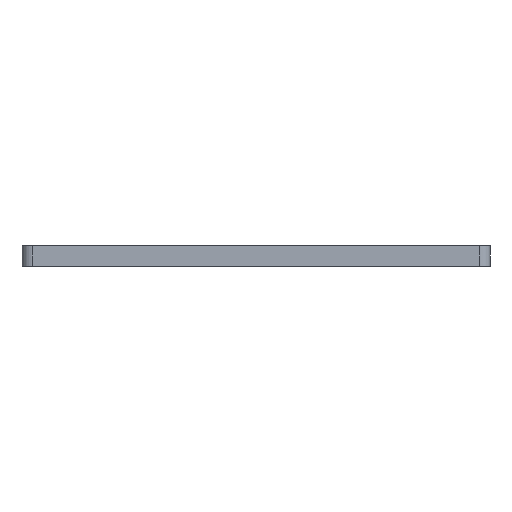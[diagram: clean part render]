
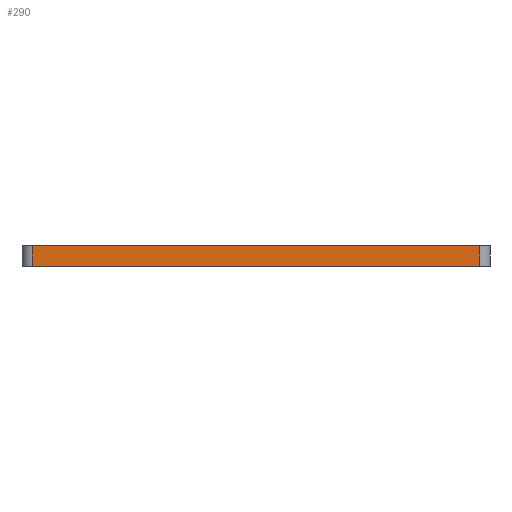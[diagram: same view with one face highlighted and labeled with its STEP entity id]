
A CAD part, left-side view. The second image highlights one B-rep face of the part: STEP entity #290.
In plain terms, the highlighted planar face has unit normal (-1, 0, 0).
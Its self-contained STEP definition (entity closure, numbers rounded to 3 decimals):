
#45 = VERTEX_POINT ( 'NONE', #416 ) ;
#117 = EDGE_CURVE ( 'NONE', #118, #120, #470, .T. ) ;
#118 = VERTEX_POINT ( 'NONE', #461 ) ;
#120 = VERTEX_POINT ( 'NONE', #496 ) ;
#177 = ORIENTED_EDGE ( 'NONE', *, *, #117, .F. ) ;
#207 = EDGE_LOOP ( 'NONE', ( #256, #289, #177, #263 ) ) ;
#209 = EDGE_CURVE ( 'NONE', #45, #371, #654, .T. ) ;
#244 = EDGE_CURVE ( 'NONE', #118, #45, #758, .T. ) ;
#256 = ORIENTED_EDGE ( 'NONE', *, *, #209, .T. ) ;
#263 = ORIENTED_EDGE ( 'NONE', *, *, #244, .T. ) ;
#288 = EDGE_CURVE ( 'NONE', #371, #120, #613, .T. ) ;
#289 = ORIENTED_EDGE ( 'NONE', *, *, #288, .T. ) ;
#290 = ADVANCED_FACE ( 'NONE', ( #616 ), #609, .F. ) ;
#371 = VERTEX_POINT ( 'NONE', #889 ) ;
#416 = CARTESIAN_POINT ( 'NONE',  ( 0., 88., 0. ) ) ;
#461 = CARTESIAN_POINT ( 'NONE',  ( 0., 88., 4. ) ) ;
#469 = CARTESIAN_POINT ( 'NONE',  ( 0., 0., 4. ) ) ;
#470 = LINE ( 'NONE', #469, #495 ) ;
#494 = DIRECTION ( 'NONE',  ( 0., -1., 0. ) ) ;
#495 = VECTOR ( 'NONE', #494, 1000. ) ;
#496 = CARTESIAN_POINT ( 'NONE',  ( 0., 2., 4. ) ) ;
#591 = DIRECTION ( 'NONE',  ( 0., 0., -1. ) ) ;
#592 = VECTOR ( 'NONE', #591, 1000. ) ;
#609 = PLANE ( 'NONE',  #681 ) ;
#610 = DIRECTION ( 'NONE',  ( 0., 0., 1. ) ) ;
#611 = VECTOR ( 'NONE', #610, 1000. ) ;
#612 = CARTESIAN_POINT ( 'NONE',  ( 0., 2., 4. ) ) ;
#613 = LINE ( 'NONE', #612, #611 ) ;
#616 = FACE_OUTER_BOUND ( 'NONE', #207, .T. ) ;
#647 = DIRECTION ( 'NONE',  ( 0., -1., 0. ) ) ;
#648 = VECTOR ( 'NONE', #647, 1000. ) ;
#653 = CARTESIAN_POINT ( 'NONE',  ( 0., 0., 0. ) ) ;
#654 = LINE ( 'NONE', #653, #648 ) ;
#681 = AXIS2_PLACEMENT_3D ( 'NONE', #725, #724, #723 ) ;
#723 = DIRECTION ( 'NONE',  ( 0., 0., -1. ) ) ;
#724 = DIRECTION ( 'NONE',  ( 1., 0., 0. ) ) ;
#725 = CARTESIAN_POINT ( 'NONE',  ( 0., 0., 4. ) ) ;
#757 = CARTESIAN_POINT ( 'NONE',  ( 0., 88., 4. ) ) ;
#758 = LINE ( 'NONE', #757, #592 ) ;
#889 = CARTESIAN_POINT ( 'NONE',  ( 0., 2., 0. ) ) ;
